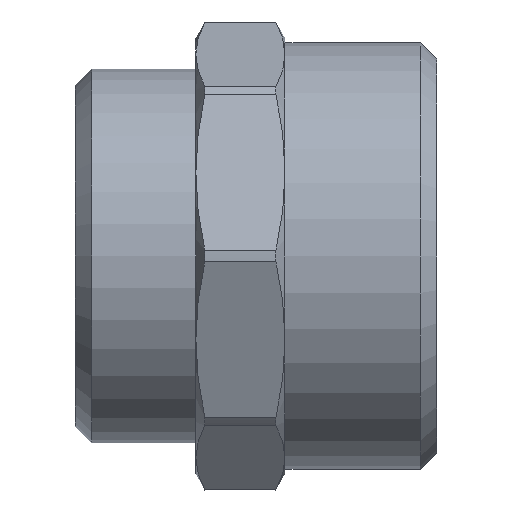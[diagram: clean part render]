
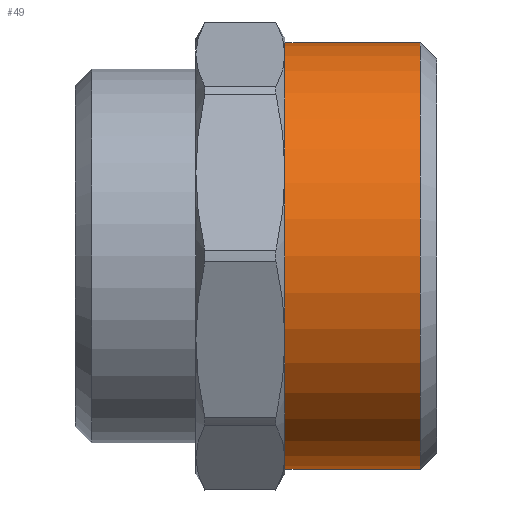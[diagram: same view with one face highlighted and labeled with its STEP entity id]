
A CAD part, left-side view. The second image highlights one B-rep face of the part: STEP entity #49.
In plain terms, the highlighted cylindrical face has radius 23.901 mm (diameter 47.803 mm), a full revolution.
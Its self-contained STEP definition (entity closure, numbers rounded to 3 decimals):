
#49=ADVANCED_FACE('',(#131,#133),#135,.T.);
#131=FACE_OUTER_BOUND('',#132,.T.);
#132=EDGE_LOOP('',(#418));
#133=FACE_OUTER_BOUND('',#134,.T.);
#134=EDGE_LOOP('',(#419));
#135=CYLINDRICAL_SURFACE('',#136,23.902);
#136=AXIS2_PLACEMENT_3D('',#137,#138,#139);
#137=CARTESIAN_POINT('',(0.,-5.,0.));
#138=DIRECTION('',(0.,-1.,0.));
#139=DIRECTION('',(1.,0.,0.));
#418=ORIENTED_EDGE('',*,*,#587,.T.);
#419=ORIENTED_EDGE('',*,*,#588,.F.);
#587=EDGE_CURVE('',#681,#681,#682,.T.);
#588=EDGE_CURVE('',#683,#683,#684,.T.);
#681=VERTEX_POINT('',#850);
#682=CIRCLE('',#851,23.902);
#683=VERTEX_POINT('',#855);
#684=CIRCLE('',#856,23.902);
#850=CARTESIAN_POINT('',(23.902,-5.,0.));
#851=AXIS2_PLACEMENT_3D('',#852,#853,#854);
#852=CARTESIAN_POINT('',(0.,-5.,0.));
#853=DIRECTION('',(0.,-1.,0.));
#854=DIRECTION('',(1.,0.,0.));
#855=CARTESIAN_POINT('',(23.902,-20.2,0.));
#856=AXIS2_PLACEMENT_3D('',#857,#858,#859);
#857=CARTESIAN_POINT('',(0.,-20.2,0.));
#858=DIRECTION('',(0.,-1.,0.));
#859=DIRECTION('',(1.,0.,0.));
